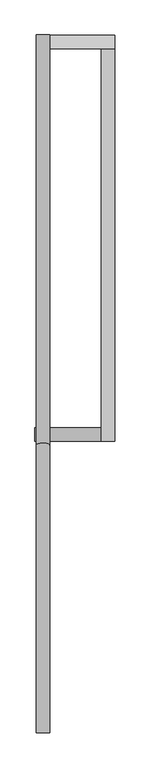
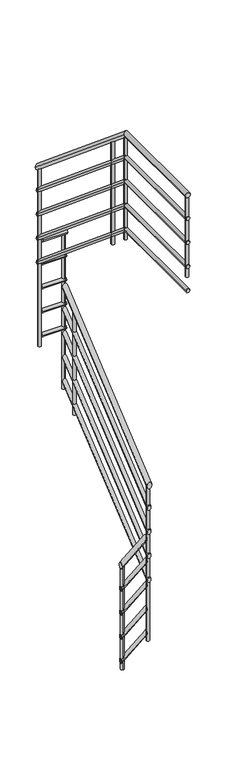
"""IFC4 building model written with IfcOpenShell, lengths in millimetres: railing geometry, 900mm 圓管."""

from ifc_helpers import new_model, si_unit, point, frame, frame_2d, origin, place, context, project, spatial, circle_curve, ellipse_curve, trimmed, segment, composite_curve, outline, extrude, source, transform, mapped, element, save
from ifc_brep_helpers import plane_surface, cylinder_surface, advanced_brep


def railing_c0a6fd58(model_context):
    return source(origin(), model_context, "Body", "SolidModel", [
        advanced_brep(
        [(757.6575868, -126.3098304, 1273.9211361), (757.6575868, -86.3098304, 1273.9211361), (951.6575868, -126.3098304, 1436.2642324), (951.6575868, -86.3098304, 1436.2642324)],
        [
            (0, 1, ellipse_curve(frame((757.6575868, -106.3098304, 1273.9211361), z_axis=(-1.0, 0.0, 0.0), x_axis=(0.0, 0.0, -1.0)), 26.0788639, 20.0)),
            (1, 0, ellipse_curve(frame((757.6575868, -106.3098304, 1273.9211361), z_axis=(-1.0, 0.0, 0.0), x_axis=(0.0, 0.0, -1.0)), 26.0788639, 20.0)),
            (2, 3, ellipse_curve(frame((951.6575868, -106.3098304, 1436.2642324), z_axis=(1.0, 0.0, 0.0), x_axis=(0.0, 0.0, -1.0)), 26.0788639, 20.0)),
            (3, 2, ellipse_curve(frame((951.6575868, -106.3098304, 1436.2642324), z_axis=(1.0, 0.0, 0.0), x_axis=(0.0, 0.0, -1.0)), 26.0788639, 20.0)),
            (0, 2),
            (3, 1),
        ],
        [
            plane_surface(frame((757.6575868, -106.3098304, 1300.0), z_axis=(-1.0, 0.0, 0.0), x_axis=(0.0, 1.0, 0.0))),
            plane_surface(frame((951.6575868, -106.3098304, 1462.3430962), z_axis=(1.0, 0.0, 0.0), x_axis=(0.0, 1.0, 0.0))),
            cylinder_surface(frame((770.4928098, -106.3098304, 1284.6619085), z_axis=(-0.7669045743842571, 0.0, -0.6417611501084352), x_axis=(0.0, 1.0, 0.0)), 20.0),
        ],
        [
            (0, [[1, 2]]),
            (1, [[3, 4]]),
            (2, [[-1, 5, -4, 6]]),
            (2, [[-2, -6, -3, -5]]),
        ],
    ),
        advanced_brep(
        [(991.6575868, -126.3098304, 1878.1325011), (951.6575868, -126.3098304, 1878.1325011), (991.6575868, 1023.6901696, 2836.4658344), (951.6575868, 1023.6901696, 2836.4658344)],
        [
            (0, 1, ellipse_curve(frame((971.6575868, -126.3098304, 1878.1325011), z_axis=(0.0, -1.0, 0.0), x_axis=(0.0, 0.0, -1.0)), 26.0341656, 20.0)),
            (1, 0, ellipse_curve(frame((971.6575868, -126.3098304, 1878.1325011), z_axis=(0.0, -1.0, 0.0), x_axis=(0.0, 0.0, -1.0)), 26.0341656, 20.0)),
            (2, 3, ellipse_curve(frame((971.6575868, 1023.6901696, 2836.4658344), z_axis=(0.0, 1.0, 0.0), x_axis=(0.0, 0.0, -1.0)), 26.0341656, 20.0)),
            (3, 2, ellipse_curve(frame((971.6575868, 1023.6901696, 2836.4658344), z_axis=(0.0, 1.0, 0.0), x_axis=(0.0, 0.0, -1.0)), 26.0341656, 20.0)),
            (0, 2),
            (3, 1),
        ],
        [
            plane_surface(frame((971.6575868, -126.3098304, 1904.1666667), z_axis=(0.0, -1.0, 0.0), x_axis=(0.0, 0.0, 1.0))),
            plane_surface(frame((971.6575868, 1023.6901696, 2862.5), z_axis=(0.0, 1.0, 0.0), x_axis=(0.0, 0.0, 1.0))),
            cylinder_surface(frame((971.6575868, -113.5061424, 1888.8022411), z_axis=(0.0, -0.7682212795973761, -0.6401843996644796), x_axis=(-1.0, 0.0, 0.0)), 20.0),
        ],
        [
            (0, [[1, 2]]),
            (1, [[3, 4]]),
            (2, [[-1, 5, -4, 6]]),
            (2, [[-2, -6, -3, -5]]),
        ],
    ),
        advanced_brep(
        [(991.6575868, 1063.6901696, 3280.0), (991.6575868, 1023.6901696, 3280.0), (801.6575868, 1063.6901696, 3280.0), (801.6575868, 1023.6901696, 3280.0)],
        [
            (0, 1, circle_curve(frame((991.6575868, 1043.6901696, 3280.0), z_axis=(1.0, 0.0, 0.0), x_axis=(0.0, -1.0, 0.0)), 20.0)),
            (1, 0, circle_curve(frame((991.6575868, 1043.6901696, 3280.0), z_axis=(1.0, 0.0, 0.0), x_axis=(0.0, -1.0, 0.0)), 20.0)),
            (2, 3, circle_curve(frame((801.6575868, 1043.6901696, 3280.0), z_axis=(-1.0, 0.0, 0.0), x_axis=(0.0, -1.0, 0.0)), 20.0)),
            (3, 2, circle_curve(frame((801.6575868, 1043.6901696, 3280.0), z_axis=(-1.0, 0.0, 0.0), x_axis=(0.0, -1.0, 0.0)), 20.0)),
            (0, 2),
            (3, 1),
        ],
        [
            plane_surface(frame((991.6575868, 1043.6901696, 3300.0), z_axis=(1.0, 0.0, 0.0), x_axis=(0.0, -1.0, 0.0))),
            plane_surface(frame((801.6575868, 1043.6901696, 3300.0), z_axis=(-1.0, 0.0, 0.0), x_axis=(0.0, -1.0, 0.0))),
            cylinder_surface(frame((991.6575868, 1043.6901696, 3280.0), z_axis=(1.0, 0.0, 0.0), x_axis=(0.0, -1.0, 0.0)), 20.0),
        ],
        [
            (0, [[1, 2]]),
            (1, [[3, 4]]),
            (2, [[-1, 5, -4, 6]]),
            (2, [[-2, -6, -3, -5]]),
        ],
    ),
        advanced_brep(
        [(761.6575868, 1063.6901696, 3878.1325011), (801.6575868, 1063.6901696, 3878.1325011), (761.6575868, -138.5508291, 4880.0), (801.6575868, -138.5508291, 4880.0), (761.6575868, -981.3098304, 4880.0), (801.6575868, -981.3098304, 4880.0)],
        [
            (0, 1, ellipse_curve(frame((781.6575868, 1063.6901696, 3878.1325011), z_axis=(0.0, 1.0, 0.0), x_axis=(0.0, 0.0, -0.9999999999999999)), 26.0341656, 20.0)),
            (1, 0, ellipse_curve(frame((781.6575868, 1063.6901696, 3878.1325011), z_axis=(0.0, 1.0, 0.0), x_axis=(0.0, 0.0, -0.9999999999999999)), 26.0341656, 20.0)),
            (0, 2),
            (2, 3, ellipse_curve(frame((781.6575868, -138.5508291, 4880.0), z_axis=(0.0, 0.9402715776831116, -0.3404252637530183), x_axis=(0.0, -0.3404252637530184, -0.9402715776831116)), 21.2704504, 20.0)),
            (3, 1),
            (3, 2, ellipse_curve(frame((781.6575868, -138.5508291, 4880.0), z_axis=(0.0, 0.9402715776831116, -0.3404252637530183), x_axis=(0.0, -0.3404252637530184, -0.9402715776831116)), 21.2704504, 20.0)),
            (4, 5, circle_curve(frame((781.6575868, -981.3098304, 4880.0), z_axis=(0.0, -1.0, 0.0), x_axis=(1.0, 0.0, 0.0)), 20.0)),
            (5, 4, circle_curve(frame((781.6575868, -981.3098304, 4880.0), z_axis=(0.0, -1.0, 0.0), x_axis=(1.0, 0.0, 0.0)), 20.0)),
            (2, 4),
            (5, 3),
        ],
        [
            plane_surface(frame((781.6575868, 1063.6901696, 3904.1666667), z_axis=(0.0, 1.0, 0.0), x_axis=(0.0, 0.0, -1.0))),
            cylinder_surface(frame((781.6575868, 1050.8864816, 3888.8022411), z_axis=(0.0, 0.768221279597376, -0.6401843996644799), x_axis=(1.0, 0.0, 0.0)), 20.0),
            plane_surface(frame((781.6575868, -981.3098304, 4900.0), z_axis=(0.0, -1.0, 0.0), x_axis=(0.0, 0.0, -1.0))),
            cylinder_surface(frame((781.6575868, -131.3098304, 4880.0), z_axis=(0.0, 1.0, 0.0), x_axis=(1.0, 0.0, 0.0)), 20.0),
        ],
        [
            (0, [[1, 2]]),
            (1, [[-1, 3, 4, 5]]),
            (1, [[-2, -5, 6, -3]]),
            (2, [[7, 8]]),
            (3, [[-4, 9, -8, 10]]),
            (3, [[-6, -10, -7, -9]]),
        ],
    ),
        advanced_brep(
        [(757.6575868, -121.3098304, 1080.4408521), (757.6575868, -91.3098304, 1080.4408521), (956.6575868, -121.3098304, 1246.9680487), (956.6575868, -91.3098304, 1246.9680487)],
        [
            (0, 1, ellipse_curve(frame((757.6575868, -106.3098304, 1080.4408521), z_axis=(-1.0, 0.0, 0.0), x_axis=(0.0, 0.0, -1.0)), 19.5591479, 15.0)),
            (1, 0, ellipse_curve(frame((757.6575868, -106.3098304, 1080.4408521), z_axis=(-1.0, 0.0, 0.0), x_axis=(0.0, 0.0, -1.0)), 19.5591479, 15.0)),
            (2, 3, ellipse_curve(frame((956.6575868, -106.3098304, 1246.9680487), z_axis=(1.0, 0.0, 0.0), x_axis=(0.0, 0.0, -1.0)), 19.5591479, 15.0)),
            (3, 2, ellipse_curve(frame((956.6575868, -106.3098304, 1246.9680487), z_axis=(1.0, 0.0, 0.0), x_axis=(0.0, 0.0, -1.0)), 19.5591479, 15.0)),
            (0, 2),
            (3, 1),
        ],
        [
            plane_surface(frame((757.6575868, -106.3098304, 1100.0), z_axis=(-1.0, 0.0, 0.0), x_axis=(0.0, 1.0, 0.0))),
            plane_surface(frame((956.6575868, -106.3098304, 1266.5271967), z_axis=(1.0, 0.0, 0.0), x_axis=(0.0, 1.0, 0.0))),
            cylinder_surface(frame((767.2840041, -106.3098304, 1088.4964314), z_axis=(-0.7669045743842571, 0.0, -0.6417611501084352), x_axis=(0.0, 1.0, 0.0)), 15.0),
        ],
        [
            (0, [[1, 2]]),
            (1, [[3, 4]]),
            (2, [[-1, 5, -4, 6]]),
            (2, [[-2, -6, -3, -5]]),
        ],
    ),
        advanced_brep(
        [(986.6575868, -121.3098304, 1688.8077091), (956.6575868, -121.3098304, 1688.8077091), (986.6575868, 1028.6901696, 2647.1410425), (956.6575868, 1028.6901696, 2647.1410425)],
        [
            (0, 1, ellipse_curve(frame((971.6575868, -121.3098304, 1688.8077091), z_axis=(0.0, -1.0, 0.0), x_axis=(0.0, 0.0, -1.0)), 19.5256242, 15.0)),
            (1, 0, ellipse_curve(frame((971.6575868, -121.3098304, 1688.8077091), z_axis=(0.0, -1.0, 0.0), x_axis=(0.0, 0.0, -1.0)), 19.5256242, 15.0)),
            (2, 3, ellipse_curve(frame((971.6575868, 1028.6901696, 2647.1410425), z_axis=(0.0, 1.0, 0.0), x_axis=(0.0, 0.0, -1.0)), 19.5256242, 15.0)),
            (3, 2, ellipse_curve(frame((971.6575868, 1028.6901696, 2647.1410425), z_axis=(0.0, 1.0, 0.0), x_axis=(0.0, 0.0, -1.0)), 19.5256242, 15.0)),
            (0, 2),
            (3, 1),
        ],
        [
            plane_surface(frame((971.6575868, -121.3098304, 1708.3333333), z_axis=(0.0, -1.0, 0.0), x_axis=(0.0, 0.0, 1.0))),
            plane_surface(frame((971.6575868, 1028.6901696, 2666.6666667), z_axis=(0.0, 1.0, 0.0), x_axis=(0.0, 0.0, 1.0))),
            cylinder_surface(frame((971.6575868, -111.7070644, 1696.8100141), z_axis=(0.0, -0.7682212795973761, -0.6401843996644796), x_axis=(-1.0, 0.0, 0.0)), 15.0),
        ],
        [
            (0, [[1, 2]]),
            (1, [[3, 4]]),
            (2, [[-1, 5, -4, 6]]),
            (2, [[-2, -6, -3, -5]]),
        ],
    ),
        advanced_brep(
        [(986.6575868, 1058.6901696, 3085.0), (986.6575868, 1028.6901696, 3085.0), (796.6575868, 1058.6901696, 3085.0), (796.6575868, 1028.6901696, 3085.0)],
        [
            (0, 1, circle_curve(frame((986.6575868, 1043.6901696, 3085.0), z_axis=(1.0, 0.0, 0.0), x_axis=(0.0, -1.0, 0.0)), 15.0)),
            (1, 0, circle_curve(frame((986.6575868, 1043.6901696, 3085.0), z_axis=(1.0, 0.0, 0.0), x_axis=(0.0, -1.0, 0.0)), 15.0)),
            (2, 3, circle_curve(frame((796.6575868, 1043.6901696, 3085.0), z_axis=(-1.0, 0.0, 0.0), x_axis=(0.0, -1.0, 0.0)), 15.0)),
            (3, 2, circle_curve(frame((796.6575868, 1043.6901696, 3085.0), z_axis=(-1.0, 0.0, 0.0), x_axis=(0.0, -1.0, 0.0)), 15.0)),
            (0, 2),
            (3, 1),
        ],
        [
            plane_surface(frame((986.6575868, 1043.6901696, 3100.0), z_axis=(1.0, 0.0, 0.0), x_axis=(0.0, -1.0, 0.0))),
            plane_surface(frame((796.6575868, 1043.6901696, 3100.0), z_axis=(-1.0, 0.0, 0.0), x_axis=(0.0, -1.0, 0.0))),
            cylinder_surface(frame((986.6575868, 1043.6901696, 3085.0), z_axis=(1.0, 0.0, 0.0), x_axis=(0.0, -1.0, 0.0)), 15.0),
        ],
        [
            (0, [[1, 2]]),
            (1, [[3, 4]]),
            (2, [[-1, 5, -4, 6]]),
            (2, [[-2, -6, -3, -5]]),
        ],
    ),
        advanced_brep(
        [(766.6575868, 1058.6901696, 3688.8077091), (796.6575868, 1058.6901696, 3688.8077091), (766.6575868, -136.7405795, 4685.0), (796.6575868, -136.7405795, 4685.0), (766.6575868, -981.3098304, 4685.0), (796.6575868, -981.3098304, 4685.0)],
        [
            (0, 1, ellipse_curve(frame((781.6575868, 1058.6901696, 3688.8077091), z_axis=(0.0, 1.0, 0.0), x_axis=(0.0, 0.0, -0.9999999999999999)), 19.5256242, 15.0)),
            (1, 0, ellipse_curve(frame((781.6575868, 1058.6901696, 3688.8077091), z_axis=(0.0, 1.0, 0.0), x_axis=(0.0, 0.0, -0.9999999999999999)), 19.5256242, 15.0)),
            (0, 2),
            (2, 3, ellipse_curve(frame((781.6575868, -136.7405795, 4685.0), z_axis=(0.0, 0.9402715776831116, -0.3404252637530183), x_axis=(0.0, -0.3404252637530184, -0.9402715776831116)), 15.9528378, 15.0)),
            (3, 1),
            (3, 2, ellipse_curve(frame((781.6575868, -136.7405795, 4685.0), z_axis=(0.0, 0.9402715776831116, -0.3404252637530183), x_axis=(0.0, -0.3404252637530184, -0.9402715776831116)), 15.9528378, 15.0)),
            (4, 5, circle_curve(frame((781.6575868, -981.3098304, 4685.0), z_axis=(0.0, -1.0, 0.0), x_axis=(1.0, 0.0, 0.0)), 15.0)),
            (5, 4, circle_curve(frame((781.6575868, -981.3098304, 4685.0), z_axis=(0.0, -1.0, 0.0), x_axis=(1.0, 0.0, 0.0)), 15.0)),
            (2, 4),
            (5, 3),
        ],
        [
            plane_surface(frame((781.6575868, 1058.6901696, 3708.3333333), z_axis=(0.0, 1.0, 0.0), x_axis=(0.0, 0.0, -1.0))),
            cylinder_surface(frame((781.6575868, 1049.0874036, 3696.8100141), z_axis=(0.0, 0.768221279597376, -0.6401843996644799), x_axis=(1.0, 0.0, 0.0)), 15.0),
            plane_surface(frame((781.6575868, -981.3098304, 4700.0), z_axis=(0.0, -1.0, 0.0), x_axis=(0.0, 0.0, -1.0))),
            cylinder_surface(frame((781.6575868, -131.3098304, 4685.0), z_axis=(0.0, 1.0, 0.0), x_axis=(1.0, 0.0, 0.0)), 15.0),
        ],
        [
            (0, [[1, 2]]),
            (1, [[-1, 3, 4, 5]]),
            (1, [[-2, -5, 6, -3]]),
            (2, [[7, 8]]),
            (3, [[-4, 9, -8, 10]]),
            (3, [[-6, -10, -7, -9]]),
        ],
    ),
        advanced_brep(
        [(757.6575868, -121.3098304, 880.4408521), (757.6575868, -91.3098304, 880.4408521), (956.6575868, -121.3098304, 1046.9680487), (956.6575868, -91.3098304, 1046.9680487)],
        [
            (0, 1, ellipse_curve(frame((757.6575868, -106.3098304, 880.4408521), z_axis=(-1.0, 0.0, 0.0), x_axis=(0.0, 0.0, -1.0)), 19.5591479, 15.0)),
            (1, 0, ellipse_curve(frame((757.6575868, -106.3098304, 880.4408521), z_axis=(-1.0, 0.0, 0.0), x_axis=(0.0, 0.0, -1.0)), 19.5591479, 15.0)),
            (2, 3, ellipse_curve(frame((956.6575868, -106.3098304, 1046.9680487), z_axis=(1.0, 0.0, 0.0), x_axis=(0.0, 0.0, -1.0)), 19.5591479, 15.0)),
            (3, 2, ellipse_curve(frame((956.6575868, -106.3098304, 1046.9680487), z_axis=(1.0, 0.0, 0.0), x_axis=(0.0, 0.0, -1.0)), 19.5591479, 15.0)),
            (0, 2),
            (3, 1),
        ],
        [
            plane_surface(frame((757.6575868, -106.3098304, 900.0), z_axis=(-1.0, 0.0, 0.0), x_axis=(0.0, 1.0, 0.0))),
            plane_surface(frame((956.6575868, -106.3098304, 1066.5271967), z_axis=(1.0, 0.0, 0.0), x_axis=(0.0, 1.0, 0.0))),
            cylinder_surface(frame((767.2840041, -106.3098304, 888.4964314), z_axis=(-0.7669045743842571, 0.0, -0.6417611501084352), x_axis=(0.0, 1.0, 0.0)), 15.0),
        ],
        [
            (0, [[1, 2]]),
            (1, [[3, 4]]),
            (2, [[-1, 5, -4, 6]]),
            (2, [[-2, -6, -3, -5]]),
        ],
    ),
        advanced_brep(
        [(986.6575868, -121.3098304, 1488.8077091), (956.6575868, -121.3098304, 1488.8077091), (986.6575868, 1028.6901696, 2447.1410425), (956.6575868, 1028.6901696, 2447.1410425)],
        [
            (0, 1, ellipse_curve(frame((971.6575868, -121.3098304, 1488.8077091), z_axis=(0.0, -1.0, 0.0), x_axis=(0.0, 0.0, -1.0)), 19.5256242, 15.0)),
            (1, 0, ellipse_curve(frame((971.6575868, -121.3098304, 1488.8077091), z_axis=(0.0, -1.0, 0.0), x_axis=(0.0, 0.0, -1.0)), 19.5256242, 15.0)),
            (2, 3, ellipse_curve(frame((971.6575868, 1028.6901696, 2447.1410425), z_axis=(0.0, 1.0, 0.0), x_axis=(0.0, 0.0, -1.0)), 19.5256242, 15.0)),
            (3, 2, ellipse_curve(frame((971.6575868, 1028.6901696, 2447.1410425), z_axis=(0.0, 1.0, 0.0), x_axis=(0.0, 0.0, -1.0)), 19.5256242, 15.0)),
            (0, 2),
            (3, 1),
        ],
        [
            plane_surface(frame((971.6575868, -121.3098304, 1508.3333333), z_axis=(0.0, -1.0, 0.0), x_axis=(0.0, 0.0, 1.0))),
            plane_surface(frame((971.6575868, 1028.6901696, 2466.6666667), z_axis=(0.0, 1.0, 0.0), x_axis=(0.0, 0.0, 1.0))),
            cylinder_surface(frame((971.6575868, -111.7070644, 1496.8100141), z_axis=(0.0, -0.7682212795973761, -0.6401843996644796), x_axis=(-1.0, 0.0, 0.0)), 15.0),
        ],
        [
            (0, [[1, 2]]),
            (1, [[3, 4]]),
            (2, [[-1, 5, -4, 6]]),
            (2, [[-2, -6, -3, -5]]),
        ],
    ),
        advanced_brep(
        [(986.6575868, 1058.6901696, 2885.0), (986.6575868, 1028.6901696, 2885.0), (796.6575868, 1058.6901696, 2885.0), (796.6575868, 1028.6901696, 2885.0)],
        [
            (0, 1, circle_curve(frame((986.6575868, 1043.6901696, 2885.0), z_axis=(1.0, 0.0, 0.0), x_axis=(0.0, -1.0, 0.0)), 15.0)),
            (1, 0, circle_curve(frame((986.6575868, 1043.6901696, 2885.0), z_axis=(1.0, 0.0, 0.0), x_axis=(0.0, -1.0, 0.0)), 15.0)),
            (2, 3, circle_curve(frame((796.6575868, 1043.6901696, 2885.0), z_axis=(-1.0, 0.0, 0.0), x_axis=(0.0, -1.0, 0.0)), 15.0)),
            (3, 2, circle_curve(frame((796.6575868, 1043.6901696, 2885.0), z_axis=(-1.0, 0.0, 0.0), x_axis=(0.0, -1.0, 0.0)), 15.0)),
            (0, 2),
            (3, 1),
        ],
        [
            plane_surface(frame((986.6575868, 1043.6901696, 2900.0), z_axis=(1.0, 0.0, 0.0), x_axis=(0.0, -1.0, 0.0))),
            plane_surface(frame((796.6575868, 1043.6901696, 2900.0), z_axis=(-1.0, 0.0, 0.0), x_axis=(0.0, -1.0, 0.0))),
            cylinder_surface(frame((986.6575868, 1043.6901696, 2885.0), z_axis=(1.0, 0.0, 0.0), x_axis=(0.0, -1.0, 0.0)), 15.0),
        ],
        [
            (0, [[1, 2]]),
            (1, [[3, 4]]),
            (2, [[-1, 5, -4, 6]]),
            (2, [[-2, -6, -3, -5]]),
        ],
    ),
        advanced_brep(
        [(766.6575868, 1058.6901696, 3488.8077091), (796.6575868, 1058.6901696, 3488.8077091), (766.6575868, -136.7405795, 4485.0), (796.6575868, -136.7405795, 4485.0), (766.6575868, -981.3098304, 4485.0), (796.6575868, -981.3098304, 4485.0)],
        [
            (0, 1, ellipse_curve(frame((781.6575868, 1058.6901696, 3488.8077091), z_axis=(0.0, 1.0, 0.0), x_axis=(0.0, 0.0, -0.9999999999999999)), 19.5256242, 15.0)),
            (1, 0, ellipse_curve(frame((781.6575868, 1058.6901696, 3488.8077091), z_axis=(0.0, 1.0, 0.0), x_axis=(0.0, 0.0, -0.9999999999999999)), 19.5256242, 15.0)),
            (0, 2),
            (2, 3, ellipse_curve(frame((781.6575868, -136.7405795, 4485.0), z_axis=(0.0, 0.9402715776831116, -0.3404252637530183), x_axis=(0.0, -0.3404252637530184, -0.9402715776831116)), 15.9528378, 15.0)),
            (3, 1),
            (3, 2, ellipse_curve(frame((781.6575868, -136.7405795, 4485.0), z_axis=(0.0, 0.9402715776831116, -0.3404252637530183), x_axis=(0.0, -0.3404252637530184, -0.9402715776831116)), 15.9528378, 15.0)),
            (4, 5, circle_curve(frame((781.6575868, -981.3098304, 4485.0), z_axis=(0.0, -1.0, 0.0), x_axis=(1.0, 0.0, 0.0)), 15.0)),
            (5, 4, circle_curve(frame((781.6575868, -981.3098304, 4485.0), z_axis=(0.0, -1.0, 0.0), x_axis=(1.0, 0.0, 0.0)), 15.0)),
            (2, 4),
            (5, 3),
        ],
        [
            plane_surface(frame((781.6575868, 1058.6901696, 3508.3333333), z_axis=(0.0, 1.0, 0.0), x_axis=(0.0, 0.0, -1.0))),
            cylinder_surface(frame((781.6575868, 1049.0874036, 3496.8100141), z_axis=(0.0, 0.768221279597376, -0.6401843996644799), x_axis=(1.0, 0.0, 0.0)), 15.0),
            plane_surface(frame((781.6575868, -981.3098304, 4500.0), z_axis=(0.0, -1.0, 0.0), x_axis=(0.0, 0.0, -1.0))),
            cylinder_surface(frame((781.6575868, -131.3098304, 4485.0), z_axis=(0.0, 1.0, 0.0), x_axis=(1.0, 0.0, 0.0)), 15.0),
        ],
        [
            (0, [[1, 2]]),
            (1, [[-1, 3, 4, 5]]),
            (1, [[-2, -5, 6, -3]]),
            (2, [[7, 8]]),
            (3, [[-4, 9, -8, 10]]),
            (3, [[-6, -10, -7, -9]]),
        ],
    ),
        advanced_brep(
        [(757.6575868, -121.3098304, 680.4408521), (757.6575868, -91.3098304, 680.4408521), (956.6575868, -121.3098304, 846.9680487), (956.6575868, -91.3098304, 846.9680487)],
        [
            (0, 1, ellipse_curve(frame((757.6575868, -106.3098304, 680.4408521), z_axis=(-1.0, 0.0, 0.0), x_axis=(0.0, 0.0, -1.0)), 19.5591479, 15.0)),
            (1, 0, ellipse_curve(frame((757.6575868, -106.3098304, 680.4408521), z_axis=(-1.0, 0.0, 0.0), x_axis=(0.0, 0.0, -1.0)), 19.5591479, 15.0)),
            (2, 3, ellipse_curve(frame((956.6575868, -106.3098304, 846.9680487), z_axis=(1.0, 0.0, 0.0), x_axis=(0.0, 0.0, -1.0)), 19.5591479, 15.0)),
            (3, 2, ellipse_curve(frame((956.6575868, -106.3098304, 846.9680487), z_axis=(1.0, 0.0, 0.0), x_axis=(0.0, 0.0, -1.0)), 19.5591479, 15.0)),
            (0, 2),
            (3, 1),
        ],
        [
            plane_surface(frame((757.6575868, -106.3098304, 700.0), z_axis=(-1.0, 0.0, 0.0), x_axis=(0.0, 1.0, 0.0))),
            plane_surface(frame((956.6575868, -106.3098304, 866.5271967), z_axis=(1.0, 0.0, 0.0), x_axis=(0.0, 1.0, 0.0))),
            cylinder_surface(frame((767.2840041, -106.3098304, 688.4964314), z_axis=(-0.7669045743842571, 0.0, -0.6417611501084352), x_axis=(0.0, 1.0, 0.0)), 15.0),
        ],
        [
            (0, [[1, 2]]),
            (1, [[3, 4]]),
            (2, [[-1, 5, -4, 6]]),
            (2, [[-2, -6, -3, -5]]),
        ],
    ),
        advanced_brep(
        [(986.6575868, -121.3098304, 1288.8077091), (956.6575868, -121.3098304, 1288.8077091), (986.6575868, 1028.6901696, 2247.1410425), (956.6575868, 1028.6901696, 2247.1410425)],
        [
            (0, 1, ellipse_curve(frame((971.6575868, -121.3098304, 1288.8077091), z_axis=(0.0, -1.0, 0.0), x_axis=(0.0, 0.0, -1.0)), 19.5256242, 15.0)),
            (1, 0, ellipse_curve(frame((971.6575868, -121.3098304, 1288.8077091), z_axis=(0.0, -1.0, 0.0), x_axis=(0.0, 0.0, -1.0)), 19.5256242, 15.0)),
            (2, 3, ellipse_curve(frame((971.6575868, 1028.6901696, 2247.1410425), z_axis=(0.0, 1.0, 0.0), x_axis=(0.0, 0.0, -1.0)), 19.5256242, 15.0)),
            (3, 2, ellipse_curve(frame((971.6575868, 1028.6901696, 2247.1410425), z_axis=(0.0, 1.0, 0.0), x_axis=(0.0, 0.0, -1.0)), 19.5256242, 15.0)),
            (0, 2),
            (3, 1),
        ],
        [
            plane_surface(frame((971.6575868, -121.3098304, 1308.3333333), z_axis=(0.0, -1.0, 0.0), x_axis=(0.0, 0.0, 1.0))),
            plane_surface(frame((971.6575868, 1028.6901696, 2266.6666667), z_axis=(0.0, 1.0, 0.0), x_axis=(0.0, 0.0, 1.0))),
            cylinder_surface(frame((971.6575868, -111.7070644, 1296.8100141), z_axis=(0.0, -0.7682212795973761, -0.6401843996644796), x_axis=(-1.0, 0.0, 0.0)), 15.0),
        ],
        [
            (0, [[1, 2]]),
            (1, [[3, 4]]),
            (2, [[-1, 5, -4, 6]]),
            (2, [[-2, -6, -3, -5]]),
        ],
    ),
        advanced_brep(
        [(986.6575868, 1058.6901696, 2685.0), (986.6575868, 1028.6901696, 2685.0), (796.6575868, 1058.6901696, 2685.0), (796.6575868, 1028.6901696, 2685.0)],
        [
            (0, 1, circle_curve(frame((986.6575868, 1043.6901696, 2685.0), z_axis=(1.0, 0.0, 0.0), x_axis=(0.0, -1.0, 0.0)), 15.0)),
            (1, 0, circle_curve(frame((986.6575868, 1043.6901696, 2685.0), z_axis=(1.0, 0.0, 0.0), x_axis=(0.0, -1.0, 0.0)), 15.0)),
            (2, 3, circle_curve(frame((796.6575868, 1043.6901696, 2685.0), z_axis=(-1.0, 0.0, 0.0), x_axis=(0.0, -1.0, 0.0)), 15.0)),
            (3, 2, circle_curve(frame((796.6575868, 1043.6901696, 2685.0), z_axis=(-1.0, 0.0, 0.0), x_axis=(0.0, -1.0, 0.0)), 15.0)),
            (0, 2),
            (3, 1),
        ],
        [
            plane_surface(frame((986.6575868, 1043.6901696, 2700.0), z_axis=(1.0, 0.0, 0.0), x_axis=(0.0, -1.0, 0.0))),
            plane_surface(frame((796.6575868, 1043.6901696, 2700.0), z_axis=(-1.0, 0.0, 0.0), x_axis=(0.0, -1.0, 0.0))),
            cylinder_surface(frame((986.6575868, 1043.6901696, 2685.0), z_axis=(1.0, 0.0, 0.0), x_axis=(0.0, -1.0, 0.0)), 15.0),
        ],
        [
            (0, [[1, 2]]),
            (1, [[3, 4]]),
            (2, [[-1, 5, -4, 6]]),
            (2, [[-2, -6, -3, -5]]),
        ],
    ),
        advanced_brep(
        [(766.6575868, 1058.6901696, 3288.8077091), (796.6575868, 1058.6901696, 3288.8077091), (766.6575868, -136.7405795, 4285.0), (796.6575868, -136.7405795, 4285.0), (766.6575868, -981.3098304, 4285.0), (796.6575868, -981.3098304, 4285.0)],
        [
            (0, 1, ellipse_curve(frame((781.6575868, 1058.6901696, 3288.8077091), z_axis=(0.0, 1.0, 0.0), x_axis=(0.0, 0.0, -0.9999999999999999)), 19.5256242, 15.0)),
            (1, 0, ellipse_curve(frame((781.6575868, 1058.6901696, 3288.8077091), z_axis=(0.0, 1.0, 0.0), x_axis=(0.0, 0.0, -0.9999999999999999)), 19.5256242, 15.0)),
            (0, 2),
            (2, 3, ellipse_curve(frame((781.6575868, -136.7405795, 4285.0), z_axis=(0.0, 0.9402715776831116, -0.3404252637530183), x_axis=(0.0, -0.3404252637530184, -0.9402715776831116)), 15.9528378, 15.0)),
            (3, 1),
            (3, 2, ellipse_curve(frame((781.6575868, -136.7405795, 4285.0), z_axis=(0.0, 0.9402715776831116, -0.3404252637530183), x_axis=(0.0, -0.3404252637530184, -0.9402715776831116)), 15.9528378, 15.0)),
            (4, 5, circle_curve(frame((781.6575868, -981.3098304, 4285.0), z_axis=(0.0, -1.0, 0.0), x_axis=(1.0, 0.0, 0.0)), 15.0)),
            (5, 4, circle_curve(frame((781.6575868, -981.3098304, 4285.0), z_axis=(0.0, -1.0, 0.0), x_axis=(1.0, 0.0, 0.0)), 15.0)),
            (2, 4),
            (5, 3),
        ],
        [
            plane_surface(frame((781.6575868, 1058.6901696, 3308.3333333), z_axis=(0.0, 1.0, 0.0), x_axis=(0.0, 0.0, -1.0))),
            cylinder_surface(frame((781.6575868, 1049.0874036, 3296.8100141), z_axis=(0.0, 0.768221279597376, -0.6401843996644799), x_axis=(1.0, 0.0, 0.0)), 15.0),
            plane_surface(frame((781.6575868, -981.3098304, 4300.0), z_axis=(0.0, -1.0, 0.0), x_axis=(0.0, 0.0, -1.0))),
            cylinder_surface(frame((781.6575868, -131.3098304, 4285.0), z_axis=(0.0, 1.0, 0.0), x_axis=(1.0, 0.0, 0.0)), 15.0),
        ],
        [
            (0, [[1, 2]]),
            (1, [[-1, 3, 4, 5]]),
            (1, [[-2, -5, 6, -3]]),
            (2, [[7, 8]]),
            (3, [[-4, 9, -8, 10]]),
            (3, [[-6, -10, -7, -9]]),
        ],
    ),
        advanced_brep(
        [(757.6575868, -121.3098304, 480.4408521), (757.6575868, -91.3098304, 480.4408521), (956.6575868, -121.3098304, 646.9680487), (956.6575868, -91.3098304, 646.9680487)],
        [
            (0, 1, ellipse_curve(frame((757.6575868, -106.3098304, 480.4408521), z_axis=(-1.0, 0.0, 0.0), x_axis=(0.0, 0.0, -1.0)), 19.5591479, 15.0)),
            (1, 0, ellipse_curve(frame((757.6575868, -106.3098304, 480.4408521), z_axis=(-1.0, 0.0, 0.0), x_axis=(0.0, 0.0, -1.0)), 19.5591479, 15.0)),
            (2, 3, ellipse_curve(frame((956.6575868, -106.3098304, 646.9680487), z_axis=(1.0, 0.0, 0.0), x_axis=(0.0, 0.0, -1.0)), 19.5591479, 15.0)),
            (3, 2, ellipse_curve(frame((956.6575868, -106.3098304, 646.9680487), z_axis=(1.0, 0.0, 0.0), x_axis=(0.0, 0.0, -1.0)), 19.5591479, 15.0)),
            (0, 2),
            (3, 1),
        ],
        [
            plane_surface(frame((757.6575868, -106.3098304, 500.0), z_axis=(-1.0, 0.0, 0.0), x_axis=(0.0, 1.0, 0.0))),
            plane_surface(frame((956.6575868, -106.3098304, 666.5271967), z_axis=(1.0, 0.0, 0.0), x_axis=(0.0, 1.0, 0.0))),
            cylinder_surface(frame((767.2840041, -106.3098304, 488.4964314), z_axis=(-0.7669045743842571, 0.0, -0.6417611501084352), x_axis=(0.0, 1.0, 0.0)), 15.0),
        ],
        [
            (0, [[1, 2]]),
            (1, [[3, 4]]),
            (2, [[-1, 5, -4, 6]]),
            (2, [[-2, -6, -3, -5]]),
        ],
    ),
        advanced_brep(
        [(986.6575868, -121.3098304, 1088.8077091), (956.6575868, -121.3098304, 1088.8077091), (986.6575868, 1028.6901696, 2047.1410425), (956.6575868, 1028.6901696, 2047.1410425)],
        [
            (0, 1, ellipse_curve(frame((971.6575868, -121.3098304, 1088.8077091), z_axis=(0.0, -1.0, 0.0), x_axis=(0.0, 0.0, -1.0)), 19.5256242, 15.0)),
            (1, 0, ellipse_curve(frame((971.6575868, -121.3098304, 1088.8077091), z_axis=(0.0, -1.0, 0.0), x_axis=(0.0, 0.0, -1.0)), 19.5256242, 15.0)),
            (2, 3, ellipse_curve(frame((971.6575868, 1028.6901696, 2047.1410425), z_axis=(0.0, 1.0, 0.0), x_axis=(0.0, 0.0, -1.0)), 19.5256242, 15.0)),
            (3, 2, ellipse_curve(frame((971.6575868, 1028.6901696, 2047.1410425), z_axis=(0.0, 1.0, 0.0), x_axis=(0.0, 0.0, -1.0)), 19.5256242, 15.0)),
            (0, 2),
            (3, 1),
        ],
        [
            plane_surface(frame((971.6575868, -121.3098304, 1108.3333333), z_axis=(0.0, -1.0, 0.0), x_axis=(0.0, 0.0, 1.0))),
            plane_surface(frame((971.6575868, 1028.6901696, 2066.6666667), z_axis=(0.0, 1.0, 0.0), x_axis=(0.0, 0.0, 1.0))),
            cylinder_surface(frame((971.6575868, -111.7070644, 1096.8100141), z_axis=(0.0, -0.7682212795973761, -0.6401843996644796), x_axis=(-1.0, 0.0, 0.0)), 15.0),
        ],
        [
            (0, [[1, 2]]),
            (1, [[3, 4]]),
            (2, [[-1, 5, -4, 6]]),
            (2, [[-2, -6, -3, -5]]),
        ],
    ),
        advanced_brep(
        [(986.6575868, 1058.6901696, 2485.0), (986.6575868, 1028.6901696, 2485.0), (796.6575868, 1058.6901696, 2485.0), (796.6575868, 1028.6901696, 2485.0)],
        [
            (0, 1, circle_curve(frame((986.6575868, 1043.6901696, 2485.0), z_axis=(1.0, 0.0, 0.0), x_axis=(0.0, -1.0, 0.0)), 15.0)),
            (1, 0, circle_curve(frame((986.6575868, 1043.6901696, 2485.0), z_axis=(1.0, 0.0, 0.0), x_axis=(0.0, -1.0, 0.0)), 15.0)),
            (2, 3, circle_curve(frame((796.6575868, 1043.6901696, 2485.0), z_axis=(-1.0, 0.0, 0.0), x_axis=(0.0, -1.0, 0.0)), 15.0)),
            (3, 2, circle_curve(frame((796.6575868, 1043.6901696, 2485.0), z_axis=(-1.0, 0.0, 0.0), x_axis=(0.0, -1.0, 0.0)), 15.0)),
            (0, 2),
            (3, 1),
        ],
        [
            plane_surface(frame((986.6575868, 1043.6901696, 2500.0), z_axis=(1.0, 0.0, 0.0), x_axis=(0.0, -1.0, 0.0))),
            plane_surface(frame((796.6575868, 1043.6901696, 2500.0), z_axis=(-1.0, 0.0, 0.0), x_axis=(0.0, -1.0, 0.0))),
            cylinder_surface(frame((986.6575868, 1043.6901696, 2485.0), z_axis=(1.0, 0.0, 0.0), x_axis=(0.0, -1.0, 0.0)), 15.0),
        ],
        [
            (0, [[1, 2]]),
            (1, [[3, 4]]),
            (2, [[-1, 5, -4, 6]]),
            (2, [[-2, -6, -3, -5]]),
        ],
    ),
        advanced_brep(
        [(766.6575868, 1058.6901696, 3088.8077091), (796.6575868, 1058.6901696, 3088.8077091), (766.6575868, -136.7405795, 4085.0), (796.6575868, -136.7405795, 4085.0), (766.6575868, -981.3098304, 4085.0), (796.6575868, -981.3098304, 4085.0)],
        [
            (0, 1, ellipse_curve(frame((781.6575868, 1058.6901696, 3088.8077091), z_axis=(0.0, 1.0, 0.0), x_axis=(0.0, 0.0, -0.9999999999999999)), 19.5256242, 15.0)),
            (1, 0, ellipse_curve(frame((781.6575868, 1058.6901696, 3088.8077091), z_axis=(0.0, 1.0, 0.0), x_axis=(0.0, 0.0, -0.9999999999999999)), 19.5256242, 15.0)),
            (0, 2),
            (2, 3, ellipse_curve(frame((781.6575868, -136.7405795, 4085.0), z_axis=(0.0, 0.9402715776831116, -0.3404252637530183), x_axis=(0.0, -0.3404252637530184, -0.9402715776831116)), 15.9528378, 15.0)),
            (3, 1),
            (3, 2, ellipse_curve(frame((781.6575868, -136.7405795, 4085.0), z_axis=(0.0, 0.9402715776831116, -0.3404252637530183), x_axis=(0.0, -0.3404252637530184, -0.9402715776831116)), 15.9528378, 15.0)),
            (4, 5, circle_curve(frame((781.6575868, -981.3098304, 4085.0), z_axis=(0.0, -1.0, 0.0), x_axis=(1.0, 0.0, 0.0)), 15.0)),
            (5, 4, circle_curve(frame((781.6575868, -981.3098304, 4085.0), z_axis=(0.0, -1.0, 0.0), x_axis=(1.0, 0.0, 0.0)), 15.0)),
            (2, 4),
            (5, 3),
        ],
        [
            plane_surface(frame((781.6575868, 1058.6901696, 3108.3333333), z_axis=(0.0, 1.0, 0.0), x_axis=(0.0, 0.0, -1.0))),
            cylinder_surface(frame((781.6575868, 1049.0874036, 3096.8100141), z_axis=(0.0, 0.768221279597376, -0.6401843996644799), x_axis=(1.0, 0.0, 0.0)), 15.0),
            plane_surface(frame((781.6575868, -981.3098304, 4100.0), z_axis=(0.0, -1.0, 0.0), x_axis=(0.0, 0.0, -1.0))),
            cylinder_surface(frame((781.6575868, -131.3098304, 4085.0), z_axis=(0.0, 1.0, 0.0), x_axis=(1.0, 0.0, 0.0)), 15.0),
        ],
        [
            (0, [[1, 2]]),
            (1, [[-1, 3, 4, 5]]),
            (1, [[-2, -5, 6, -3]]),
            (2, [[7, 8]]),
            (3, [[-4, 9, -8, 10]]),
            (3, [[-6, -10, -7, -9]]),
        ],
    ),
        advanced_brep(
        [(794.1575868, 43.6901696, 4702.0983355), (769.1575868, 43.6901696, 4702.0983355), (769.1575868, 43.6901696, 3854.1666667), (794.1575868, 43.6901696, 3854.1666667)],
        [
            (0, 1, ellipse_curve(frame((781.6575868, 43.6901696, 4702.0983355), z_axis=(0.0, -0.6401843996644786, -0.7682212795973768), x_axis=(0.0, -0.7682212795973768, 0.6401843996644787)), 16.2713535, 12.5)),
            (1, 2),
            (2, 3, circle_curve(frame((781.6575868, 43.6901696, 3854.1666667), z_axis=(0.0, 0.0, 1.0), x_axis=(-1.0, 0.0, 0.0)), 12.5)),
            (3, 0),
            (3, 2, circle_curve(frame((781.6575868, 43.6901696, 3854.1666667), z_axis=(0.0, 0.0, 1.0), x_axis=(-1.0, 0.0, 0.0)), 12.5)),
            (1, 0, ellipse_curve(frame((781.6575868, 43.6901696, 4702.0983355), z_axis=(0.0, -0.6401843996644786, -0.7682212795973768), x_axis=(0.0, -0.7682212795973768, 0.6401843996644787)), 16.2713535, 12.5)),
        ],
        [
            cylinder_surface(frame((781.6575868, 43.6901696, 3754.1666667), z_axis=(0.0, 0.0, 1.0), x_axis=(-1.0, 0.0, 0.0)), 12.5),
            plane_surface(frame((756.6575868, 18.6901696, 4722.9316688), z_axis=(0.0, 0.6401843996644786, 0.7682212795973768), x_axis=(1.0, 0.0, 0.0))),
            plane_surface(frame((756.6575868, 68.6901696, 3854.1666667), z_axis=(0.0, 0.0, -1.0), x_axis=(1.0, 0.0, 0.0))),
        ],
        [
            (0, [[1, 2, 3, 4]]),
            (0, [[5, -2, 6, -4]]),
            (1, [[-6, -1]]),
            (2, [[-5, -3]]),
        ],
    ),
        advanced_brep(
        [(959.1575868, 893.6901696, 2702.0983355), (984.1575868, 893.6901696, 2702.0983355), (984.1575868, 893.6901696, 1854.1666667), (959.1575868, 893.6901696, 1854.1666667)],
        [
            (0, 1, ellipse_curve(frame((971.6575868, 893.6901696, 2702.0983355), z_axis=(0.0, 0.6401843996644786, -0.7682212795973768), x_axis=(0.0, 0.7682212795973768, 0.6401843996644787)), 16.2713535, 12.5)),
            (1, 2),
            (2, 3, circle_curve(frame((971.6575868, 893.6901696, 1854.1666667), z_axis=(0.0, 0.0, 1.0), x_axis=(1.0, 0.0, 0.0)), 12.5)),
            (3, 0),
            (3, 2, circle_curve(frame((971.6575868, 893.6901696, 1854.1666667), z_axis=(0.0, 0.0, 1.0), x_axis=(1.0, 0.0, 0.0)), 12.5)),
            (1, 0, ellipse_curve(frame((971.6575868, 893.6901696, 2702.0983355), z_axis=(0.0, 0.6401843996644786, -0.7682212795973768), x_axis=(0.0, 0.7682212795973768, 0.6401843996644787)), 16.2713535, 12.5)),
        ],
        [
            cylinder_surface(frame((971.6575868, 893.6901696, 1754.1666667), z_axis=(0.0, 0.0, 1.0), x_axis=(1.0, 0.0, 0.0)), 12.5),
            plane_surface(frame((996.6575868, 918.6901696, 2722.9316688), z_axis=(0.0, -0.6401843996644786, 0.7682212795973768), x_axis=(-1.0, 0.0, 0.0))),
            plane_surface(frame((996.6575868, 868.6901696, 1854.1666667), z_axis=(0.0, 0.0, -1.0), x_axis=(-1.0, 0.0, 0.0))),
        ],
        [
            (0, [[1, 2, 3, 4]]),
            (0, [[5, -2, 6, -4]]),
            (1, [[-6, -1]]),
            (2, [[-5, -3]]),
        ],
    ),
        advanced_brep(
        [(794.1575868, -131.3098304, 4847.9316688), (769.1575868, -131.3098304, 4847.9316688), (769.1575868, -131.3098304, 4000.0), (794.1575868, -131.3098304, 4000.0)],
        [
            (0, 1, ellipse_curve(frame((781.6575868, -131.3098304, 4847.9316688), z_axis=(0.0, -0.6401843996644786, -0.7682212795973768), x_axis=(0.0, -0.7682212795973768, 0.6401843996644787)), 16.2713535, 12.5)),
            (1, 2),
            (2, 3, circle_curve(frame((781.6575868, -131.3098304, 4000.0), z_axis=(0.0, 0.0, 1.0), x_axis=(-1.0, 0.0, 0.0)), 12.5)),
            (3, 0),
            (3, 2, circle_curve(frame((781.6575868, -131.3098304, 4000.0), z_axis=(0.0, 0.0, 1.0), x_axis=(-1.0, 0.0, 0.0)), 12.5)),
            (1, 0, ellipse_curve(frame((781.6575868, -131.3098304, 4847.9316688), z_axis=(0.0, -0.6401843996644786, -0.7682212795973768), x_axis=(0.0, -0.7682212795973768, 0.6401843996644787)), 16.2713535, 12.5)),
        ],
        [
            cylinder_surface(frame((781.6575868, -131.3098304, 3900.0), z_axis=(0.0, 0.0, 1.0), x_axis=(-1.0, 0.0, 0.0)), 12.5),
            plane_surface(frame((756.6575868, -156.3098304, 4868.7650022), z_axis=(0.0, 0.6401843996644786, 0.7682212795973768), x_axis=(1.0, 0.0, 0.0))),
            plane_surface(frame((756.6575868, -106.3098304, 4000.0), z_axis=(0.0, 0.0, -1.0), x_axis=(1.0, 0.0, 0.0))),
        ],
        [
            (0, [[1, 2, 3, 4]]),
            (0, [[5, -2, 6, -4]]),
            (1, [[-6, -1]]),
            (2, [[-5, -3]]),
        ],
    ),
        advanced_brep(
        [(794.1575868, 1043.6901696, 3868.7650022), (769.1575868, 1043.6901696, 3868.7650022), (769.1575868, 1043.6901696, 2400.0), (794.1575868, 1043.6901696, 2400.0)],
        [
            (0, 1, ellipse_curve(frame((781.6575868, 1043.6901696, 3868.7650022), z_axis=(0.0, -0.6401843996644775, -0.768221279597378), x_axis=(0.0, -0.768221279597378, 0.6401843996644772)), 16.2713535, 12.5)),
            (1, 2),
            (2, 3, circle_curve(frame((781.6575868, 1043.6901696, 2400.0), z_axis=(0.0, 0.0, 1.0), x_axis=(-1.0, 0.0, 0.0)), 12.5)),
            (3, 0),
            (3, 2, circle_curve(frame((781.6575868, 1043.6901696, 2400.0), z_axis=(0.0, 0.0, 1.0), x_axis=(-1.0, 0.0, 0.0)), 12.5)),
            (1, 0, ellipse_curve(frame((781.6575868, 1043.6901696, 3868.7650022), z_axis=(0.0, -0.6401843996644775, -0.768221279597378), x_axis=(0.0, -0.768221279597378, 0.6401843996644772)), 16.2713535, 12.5)),
        ],
        [
            cylinder_surface(frame((781.6575868, 1043.6901696, 2300.0), z_axis=(0.0, 0.0, 1.0), x_axis=(-1.0, 0.0, 0.0)), 12.5),
            plane_surface(frame((756.6575868, 1018.6901696, 3889.5983355), z_axis=(0.0, 0.6401843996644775, 0.768221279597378), x_axis=(1.0, 0.0, 0.0))),
            plane_surface(frame((756.6575868, 1068.6901696, 2400.0), z_axis=(0.0, 0.0, -1.0), x_axis=(1.0, 0.0, 0.0))),
        ],
        [
            (0, [[1, 2, 3, 4]]),
            (0, [[5, -2, 6, -4]]),
            (1, [[-6, -1]]),
            (2, [[-5, -3]]),
        ],
    ),
        extrude(outline(composite_curve([segment(trimmed(circle_curve(frame_2d((971.6575868, 1043.6901696)), 12.5), [point((971.6575868, 1056.1901696))], [point((971.6575868, 1031.1901696))], False, "CARTESIAN"), True, "CONTINUOUS"), segment(trimmed(circle_curve(frame_2d((971.6575868, 1043.6901696)), 12.5), [point((971.6575868, 1031.1901696))], [point((971.6575868, 1056.1901696))], False, "CARTESIAN"), True, "CONTINUOUS")], self_intersect=False)), frame((0.0, 0.0, 1979.1666667), z_axis=(0.0, 0.0, 1.0), x_axis=(1.0, 0.0, 0.0)), (0.0, 0.0, 1.0), 1280.8333333),
        advanced_brep(
        [(959.1575868, -106.3098304, 1868.7650022), (984.1575868, -106.3098304, 1868.7650022), (984.1575868, -106.3098304, 579.0794979), (959.1575868, -106.3098304, 579.0794979)],
        [
            (0, 1, ellipse_curve(frame((971.6575868, -106.3098304, 1868.7650022), z_axis=(0.0, 0.6401843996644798, -0.7682212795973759), x_axis=(0.0, 0.7682212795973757, 0.6401843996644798)), 16.2713535, 12.5)),
            (1, 2),
            (2, 3, circle_curve(frame((971.6575868, -106.3098304, 579.0794979), z_axis=(0.0, 0.0, 1.0), x_axis=(1.0, 0.0, 0.0)), 12.5)),
            (3, 0),
            (3, 2, circle_curve(frame((971.6575868, -106.3098304, 579.0794979), z_axis=(0.0, 0.0, 1.0), x_axis=(1.0, 0.0, 0.0)), 12.5)),
            (1, 0, ellipse_curve(frame((971.6575868, -106.3098304, 1868.7650022), z_axis=(0.0, 0.6401843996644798, -0.7682212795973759), x_axis=(0.0, 0.7682212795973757, 0.6401843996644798)), 16.2713535, 12.5)),
        ],
        [
            cylinder_surface(frame((971.6575868, -106.3098304, 479.0794979), z_axis=(0.0, 0.0, 1.0), x_axis=(1.0, 0.0, 0.0)), 12.5),
            plane_surface(frame((996.6575868, -81.3098304, 1889.5983355), z_axis=(0.0, -0.6401843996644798, 0.7682212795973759), x_axis=(-1.0, 0.0, 0.0))),
            plane_surface(frame((996.6575868, -131.3098304, 579.0794979), z_axis=(0.0, 0.0, -1.0), x_axis=(-1.0, 0.0, 0.0))),
        ],
        [
            (0, [[1, 2, 3, 4]]),
            (0, [[5, -2, 6, -4]]),
            (1, [[-6, -1]]),
            (2, [[-5, -3]]),
        ],
    ),
        extrude(outline(composite_curve([segment(trimmed(circle_curve(frame_2d((781.6575868, -968.8098304)), 12.5), [point((769.1575868, -968.8098304))], [point((794.1575868, -968.8098304))], False, "CARTESIAN"), True, "CONTINUOUS"), segment(trimmed(circle_curve(frame_2d((781.6575868, -968.8098304)), 12.5), [point((794.1575868, -968.8098304))], [point((769.1575868, -968.8098304))], False, "CARTESIAN"), True, "CONTINUOUS")], self_intersect=False)), frame((0.0, 0.0, 4197.0588235), z_axis=(0.0, 0.0, 1.0), x_axis=(1.0, 0.0, 0.0)), (0.0, 0.0, 1.0), 662.9411765),
        advanced_brep(
        [(770.1575868, -93.8098304, 1258.3025233), (770.1575868, -118.8098304, 1258.3025233), (770.1575868, -118.8098304, 410.460251), (770.1575868, -93.8098304, 410.460251)],
        [
            (0, 1, ellipse_curve(frame((770.1575868, -106.3098304, 1258.3025233), z_axis=(0.6417611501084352, 0.0, -0.7669045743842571), x_axis=(0.7669045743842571, 0.0, 0.6417611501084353)), 16.2992899, 12.5)),
            (1, 2),
            (2, 3, circle_curve(frame((770.1575868, -106.3098304, 410.460251), z_axis=(0.0, 0.0, 1.0), x_axis=(0.0, -1.0, 0.0)), 12.5)),
            (3, 0),
            (3, 2, circle_curve(frame((770.1575868, -106.3098304, 410.460251), z_axis=(0.0, 0.0, 1.0), x_axis=(0.0, -1.0, 0.0)), 12.5)),
            (1, 0, ellipse_curve(frame((770.1575868, -106.3098304, 1258.3025233), z_axis=(0.6417611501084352, 0.0, -0.7669045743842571), x_axis=(0.7669045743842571, 0.0, 0.6417611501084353)), 16.2992899, 12.5)),
        ],
        [
            cylinder_surface(frame((770.1575868, -106.3098304, 310.460251), z_axis=(0.0, 0.0, 1.0), x_axis=(0.0, -1.0, 0.0)), 12.5),
            plane_surface(frame((795.1575868, -131.3098304, 1279.2230254), z_axis=(-0.6417611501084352, 0.0, 0.7669045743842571), x_axis=(0.0, 1.0, 0.0))),
            plane_surface(frame((745.1575868, -131.3098304, 410.460251), z_axis=(0.0, 0.0, -1.0), x_axis=(0.0, 1.0, 0.0))),
        ],
        [
            (0, [[1, 2, 3, 4]]),
            (0, [[5, -2, 6, -4]]),
            (1, [[-6, -1]]),
            (2, [[-5, -3]]),
        ],
    ),
    ])


if __name__ == "__main__":
    model = new_model("IFC4")
    model_context = context("Model", 3, world=origin())
    ifc_project = project(units=[si_unit("LENGTHUNIT", "METRE", prefix="MILLI")], contexts=[model_context])
    site = spatial("IfcSite", under=ifc_project)
    building = spatial("IfcBuilding", under=site)
    placement = place(None, origin())
    railing_shape = railing_c0a6fd58(model_context)
    element("IfcRailing", 1, ObjectType="900mm 圓管", at=placement, inside=building, context=model_context, shape_type="MappedRepresentation", body=[
        mapped(railing_shape, transform((0.0, 0.0, 0.0), x_axis=(1.0, 0.0, 0.0), y_axis=(0.0, 1.0, 0.0), z_axis=(0.0, 0.0, 1.0))),
    ])
    save(model, "model.ifc")
